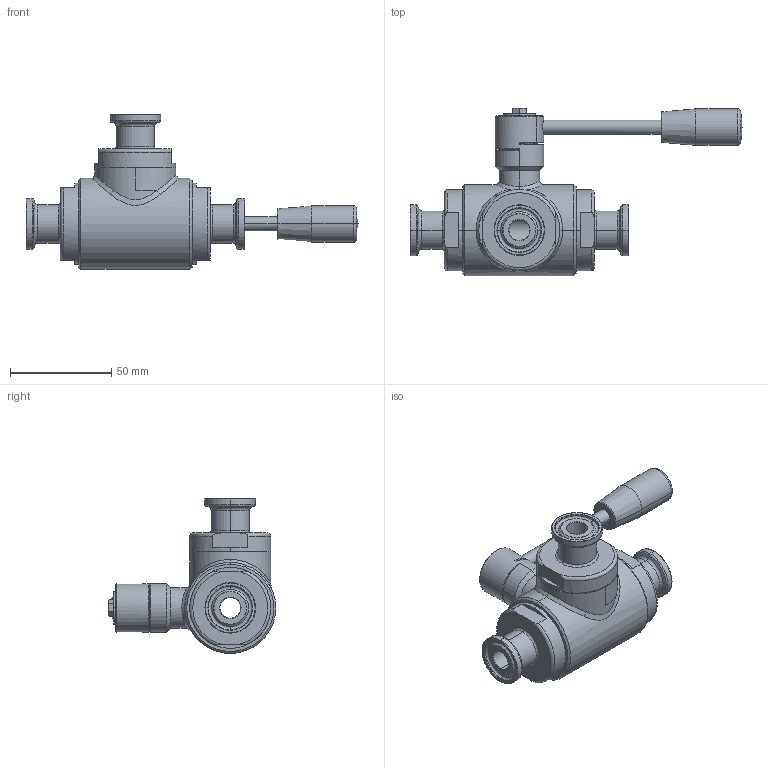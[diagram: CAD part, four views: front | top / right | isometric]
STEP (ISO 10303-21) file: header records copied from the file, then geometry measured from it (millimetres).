
FILE_DESCRIPTION((''),'2;1');
FILE_NAME('30013061110_SW0001','2026-06-03T14:09:32',('tecnico2'),('CDM Tecnoconsulting'),'CREO PARAMETRIC BY PTC INC, 2024063','CREO PARAMETRIC BY PTC INC, 2024063','');
FILE_SCHEMA(('CONFIG_CONTROL_DESIGN','SHAPE_APPEARANCE_LAYERS_GROUPS'));
Products named in the file (1): 30013061110_SW0001
Bounding box: 164 x 82.8 x 76.5 mm (x, y, z)
Volume: 149063 mm3; surface area: 47183.1 mm2
Topology: 1 solids, 3 shells, 857 faces, 2252 edges, 1413 vertices
Faces by surface type: plane 295, cylinder 185, cone 134, extrusion 102, torus 86, bspline 51, sphere 4
Entity records: 52192 total; most frequent: CARTESIAN_POINT 21959, ORIENTED_EDGE 4460, DIRECTION 3857, PRESENTATION_STYLE_ASSIGNMENT 2737, STYLED_ITEM 2334, CURVE_STYLE 2332, EDGE_CURVE 2230, VERTEX_POINT 1413
